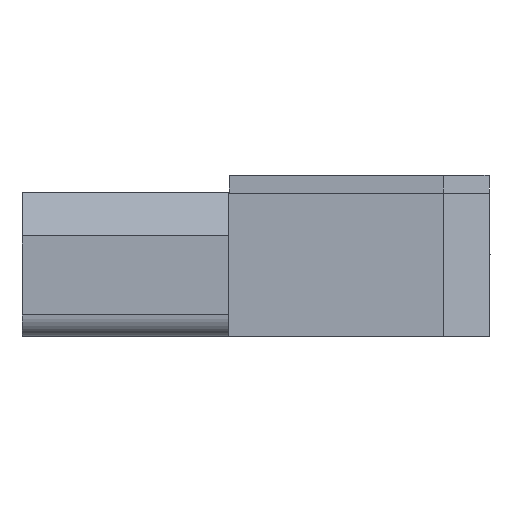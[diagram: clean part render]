
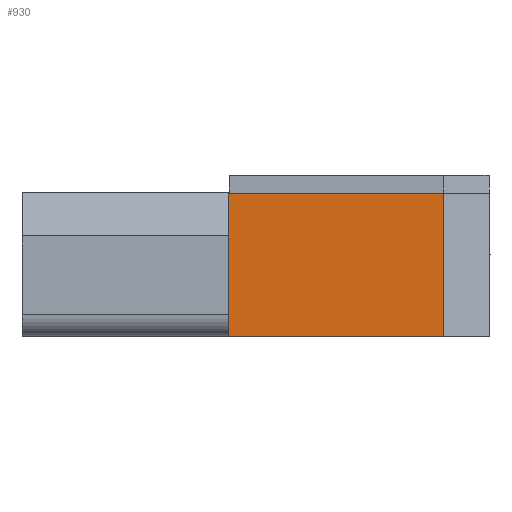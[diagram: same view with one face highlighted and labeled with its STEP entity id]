
A CAD part, front view. The second image highlights one B-rep face of the part: STEP entity #930.
In plain terms, the highlighted planar face has unit normal (0, -1, 0).
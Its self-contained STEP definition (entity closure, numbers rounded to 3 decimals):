
#930=ADVANCED_FACE('',(#2476),#2477,.F.);
#2476=FACE_OUTER_BOUND('',#4846,.T.);
#2477=PLANE('',#4847);
#4846=EDGE_LOOP('',(#7646,#7647,#7648,#7649));
#4847=AXIS2_PLACEMENT_3D('',#7650,#7651,#7652);
#7646=ORIENTED_EDGE('',*,*,#14474,.T.);
#7647=ORIENTED_EDGE('',*,*,#14475,.T.);
#7648=ORIENTED_EDGE('',*,*,#14456,.F.);
#7649=ORIENTED_EDGE('',*,*,#14476,.F.);
#7650=CARTESIAN_POINT('',(0.0,0.0,0.0));
#7651=DIRECTION('',(0.0,1.0,0.0));
#7652=DIRECTION('',(1.0,-0.0,0.0));
#14456=EDGE_CURVE('',#17087,#17089,#17090,.T.);
#14474=EDGE_CURVE('',#17120,#17121,#17122,.T.);
#14475=EDGE_CURVE('',#17121,#17089,#17123,.T.);
#14476=EDGE_CURVE('',#17120,#17087,#17124,.T.);
#17087=VERTEX_POINT('',#21000);
#17089=VERTEX_POINT('',#21003);
#17090=LINE('',#21004,#21005);
#17120=VERTEX_POINT('',#21052);
#17121=VERTEX_POINT('',#21053);
#17122=LINE('',#21054,#21055);
#17123=LINE('',#21056,#21057);
#17124=LINE('',#21058,#21059);
#21000=CARTESIAN_POINT('',(0.0,0.0,0.0));
#21003=CARTESIAN_POINT('',(0.0,0.0,40.0));
#21004=CARTESIAN_POINT('',(0.0,0.0,0.0));
#21005=VECTOR('',#26978,1.0);
#21052=CARTESIAN_POINT('',(60.,0.0,0.0));
#21053=CARTESIAN_POINT('',(60.,0.0,40.0));
#21054=CARTESIAN_POINT('',(60.,0.0,0.0));
#21055=VECTOR('',#26988,1.0);
#21056=CARTESIAN_POINT('',(0.0,0.0,40.0));
#21057=VECTOR('',#26989,1.0);
#21058=CARTESIAN_POINT('',(0.0,0.0,0.0));
#21059=VECTOR('',#26990,1.0);
#26978=DIRECTION('',(0.0,0.0,1.0));
#26988=DIRECTION('',(0.0,0.0,1.0));
#26989=DIRECTION('',(-1.0,0.0,0.0));
#26990=DIRECTION('',(-1.0,0.0,0.0));
